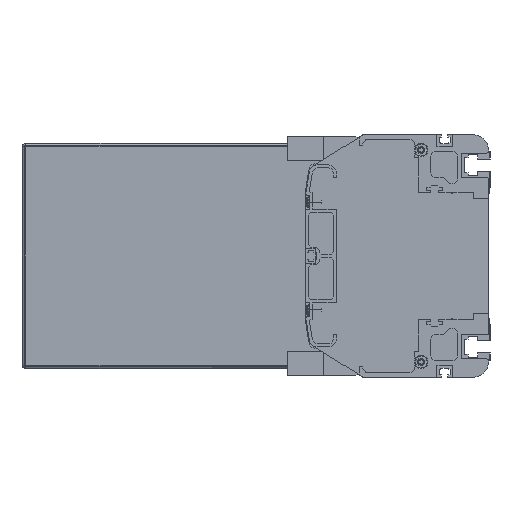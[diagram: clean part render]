
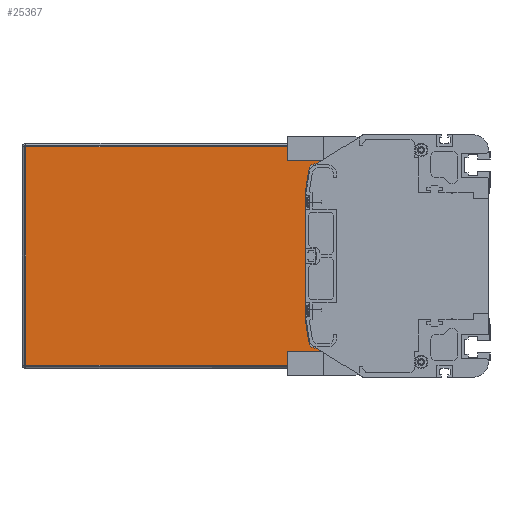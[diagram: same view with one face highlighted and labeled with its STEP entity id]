
A CAD part, left-side view. The second image highlights one B-rep face of the part: STEP entity #25367.
In plain terms, the highlighted planar face has unit normal (-1, 0, 0).
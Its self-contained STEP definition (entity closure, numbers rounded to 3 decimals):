
#1057=DIRECTION('',(0.,0.,-1.));
#1058=VECTOR('',#1057,11.);
#1059=CARTESIAN_POINT('',(2686.5,86.,-61.));
#1060=LINE('',#1059,#1058);
#1066=DIRECTION('',(0.,0.,-1.));
#1067=VECTOR('',#1066,11.);
#1068=CARTESIAN_POINT('',(2686.5,86.,72.));
#1069=LINE('',#1068,#1067);
#1079=DIRECTION('',(0.,-1.,0.));
#1080=VECTOR('',#1079,220.5);
#1081=CARTESIAN_POINT('',(2686.5,306.5,-72.));
#1082=LINE('',#1081,#1080);
#5907=DIRECTION('',(0.,1.,0.));
#5908=VECTOR('',#5907,28.728);
#5909=CARTESIAN_POINT('',(2686.5,86.,-61.));
#5910=LINE('',#5909,#5908);
#5915=CARTESIAN_POINT('',(2686.5,114.728,56.));
#5916=DIRECTION('',(-1.,0.,0.));
#5917=DIRECTION('',(0.,0.,1.));
#5918=AXIS2_PLACEMENT_3D('',#5915,#5916,#5917);
#5920=DIRECTION('',(0.,0.156,-0.988));
#5921=VECTOR('',#5920,14.963);
#5922=CARTESIAN_POINT('',(2686.5,119.666,56.78));
#5923=LINE('',#5922,#5921);
#5924=DIRECTION('',(0.,-0.156,-0.988));
#5925=VECTOR('',#5924,14.963);
#5926=CARTESIAN_POINT('',(2686.5,122.,-42.));
#5927=LINE('',#5926,#5925);
#5928=CARTESIAN_POINT('',(2686.5,114.728,-56.));
#5929=DIRECTION('',(-1.,0.,0.));
#5930=DIRECTION('',(0.,0.988,-0.156));
#5931=AXIS2_PLACEMENT_3D('',#5928,#5929,#5930);
#5937=DIRECTION('',(0.,0.,-1.));
#5938=VECTOR('',#5937,144.);
#5939=CARTESIAN_POINT('',(2686.5,306.5,72.));
#5940=LINE('',#5939,#5938);
#6106=DIRECTION('',(0.,1.,0.));
#6107=VECTOR('',#6106,220.5);
#6108=CARTESIAN_POINT('',(2686.5,86.,72.));
#6109=LINE('',#6108,#6107);
#6692=DIRECTION('',(0.,-1.,0.));
#6693=VECTOR('',#6692,28.728);
#6694=CARTESIAN_POINT('',(2686.5,114.728,61.));
#6695=LINE('',#6694,#6693);
#6708=DIRECTION('',(0.,0.,1.));
#6709=VECTOR('',#6708,84.);
#6710=CARTESIAN_POINT('',(2686.5,122.,-42.));
#6711=LINE('',#6710,#6709);
#15866=CARTESIAN_POINT('',(2686.5,306.5,-72.));
#15867=CARTESIAN_POINT('',(2686.5,86.,-72.));
#15868=VERTEX_POINT('',#15866);
#15869=VERTEX_POINT('',#15867);
#15870=CARTESIAN_POINT('',(2686.5,86.,-61.));
#15871=VERTEX_POINT('',#15870);
#15872=CARTESIAN_POINT('',(2686.5,114.728,-61.));
#15873=VERTEX_POINT('',#15872);
#15874=CARTESIAN_POINT('',(2686.5,119.666,-56.78));
#15875=VERTEX_POINT('',#15874);
#15876=CARTESIAN_POINT('',(2686.5,122.,-42.));
#15877=VERTEX_POINT('',#15876);
#15878=CARTESIAN_POINT('',(2686.5,122.,42.));
#15879=VERTEX_POINT('',#15878);
#15880=CARTESIAN_POINT('',(2686.5,119.666,56.78));
#15881=VERTEX_POINT('',#15880);
#15882=CARTESIAN_POINT('',(2686.5,114.728,61.));
#15883=VERTEX_POINT('',#15882);
#15884=CARTESIAN_POINT('',(2686.5,86.,61.));
#15885=VERTEX_POINT('',#15884);
#15886=CARTESIAN_POINT('',(2686.5,86.,72.));
#15887=VERTEX_POINT('',#15886);
#15888=CARTESIAN_POINT('',(2686.5,306.5,72.));
#15889=VERTEX_POINT('',#15888);
#25340=CARTESIAN_POINT('',(2686.5,196.25,0.));
#25341=DIRECTION('',(1.,0.,0.));
#25342=DIRECTION('',(0.,0.,-1.));
#25343=AXIS2_PLACEMENT_3D('',#25340,#25341,#25342);
#25344=PLANE('',#25343);
#25345=ORIENTED_EDGE('',*,*,#20961,.F.);
#25347=ORIENTED_EDGE('',*,*,#25346,.F.);
#25349=ORIENTED_EDGE('',*,*,#25348,.F.);
#25350=ORIENTED_EDGE('',*,*,#20943,.T.);
#25352=ORIENTED_EDGE('',*,*,#25351,.F.);
#25354=ORIENTED_EDGE('',*,*,#25353,.T.);
#25356=ORIENTED_EDGE('',*,*,#25355,.T.);
#25358=ORIENTED_EDGE('',*,*,#25357,.F.);
#25360=ORIENTED_EDGE('',*,*,#25359,.T.);
#25362=ORIENTED_EDGE('',*,*,#25361,.T.);
#25363=ORIENTED_EDGE('',*,*,#25332,.F.);
#25364=ORIENTED_EDGE('',*,*,#20911,.T.);
#25365=EDGE_LOOP('',(#25345,#25347,#25349,#25350,#25352,#25354,#25356,#25358,
#25360,#25362,#25363,#25364));
#25366=FACE_OUTER_BOUND('',#25365,.F.);
#25367=ADVANCED_FACE('',(#25366),#25344,.F.);
#5919=CIRCLE('',#5918,5.);
#5932=CIRCLE('',#5931,5.);
#20911=EDGE_CURVE('',#15871,#15869,#1060,.T.);
#20943=EDGE_CURVE('',#15887,#15885,#1069,.T.);
#20961=EDGE_CURVE('',#15868,#15869,#1082,.T.);
#25332=EDGE_CURVE('',#15871,#15873,#5910,.T.);
#25346=EDGE_CURVE('',#15889,#15868,#5940,.T.);
#25348=EDGE_CURVE('',#15887,#15889,#6109,.T.);
#25351=EDGE_CURVE('',#15883,#15885,#6695,.T.);
#25353=EDGE_CURVE('',#15883,#15881,#5919,.T.);
#25355=EDGE_CURVE('',#15881,#15879,#5923,.T.);
#25357=EDGE_CURVE('',#15877,#15879,#6711,.T.);
#25359=EDGE_CURVE('',#15877,#15875,#5927,.T.);
#25361=EDGE_CURVE('',#15875,#15873,#5932,.T.);
